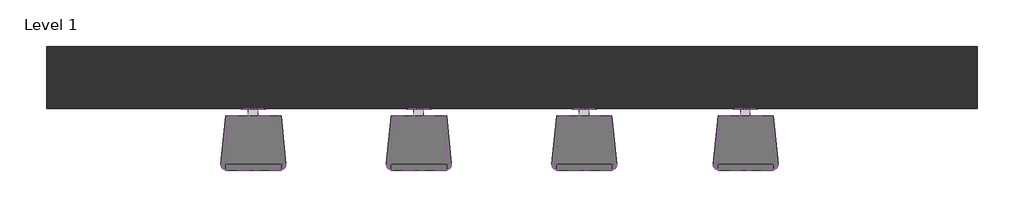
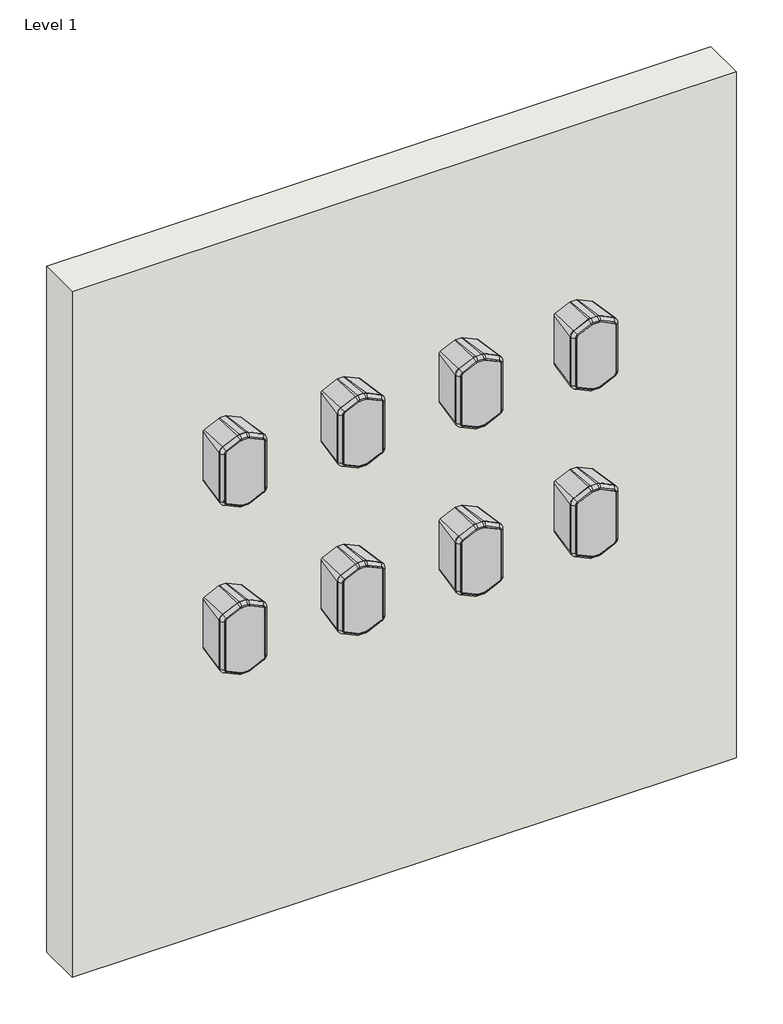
# One storey: 8 proxies, 1 wall.
"""IFC4 building model written with IfcOpenShell, lengths in millimetres."""

from ifc_helpers import new_model, si_unit, origin, origin_with_axes, place, context, project, spatial, polyline, outline, extrude, transform, mapped, element, save
from components import communication_devices_19396da9

model = new_model("IFC4")

# Units and contexts
model_context = context("Model", 3, world=origin())
ifc_project = project(units=[si_unit("LENGTHUNIT", "METRE", prefix="MILLI")], contexts=[model_context])

# Site, building, storey
site = spatial("IfcSite", under=ifc_project)
building = spatial("IfcBuilding", under=site)
storey = spatial("IfcBuildingStorey", under=building, Name="Level 1", Elevation=0.0)

# Proxies
placement = place(None, origin())
communication_devices_shape = communication_devices_19396da9(model_context)
element("IfcBuildingElementProxy", 1, Name="230208 BIM Data_MS 530T VA-FR : MS 530T VA", ObjectType="230208 BIM Data_MS 530T VA-FR : MS 530T VA", at=placement, inside=storey, context=model_context, shape_type="MappedRepresentation", body=[
    mapped(communication_devices_shape, transform((2341.1973575, 1885.8766815, 1625.6), x_axis=(1.0, 0.0, 0.0), y_axis=(0.0, 1.0, 0.0), z_axis=(0.0, 0.0, 1.0))),
])
element("IfcBuildingElementProxy", 2, Name="230208 BIM Data_MS 530T VA-FR : MS 530T VA", ObjectType="230208 BIM Data_MS 530T VA-FR : MS 530T VA", at=placement, inside=storey, context=model_context, shape_type="MappedRepresentation", body=[
    mapped(communication_devices_shape, transform((2747.5973575, 1885.8766815, 1625.6), x_axis=(1.0, 0.0, 0.0), y_axis=(0.0, 1.0, 0.0), z_axis=(0.0, 0.0, 1.0))),
])
element("IfcBuildingElementProxy", 3, Name="230208 BIM Data_MS 530T VA-FR : MS 530T VA", ObjectType="230208 BIM Data_MS 530T VA-FR : MS 530T VA", at=placement, inside=storey, context=model_context, shape_type="MappedRepresentation", body=[
    mapped(communication_devices_shape, transform((3153.9973575, 1885.8766815, 1625.6), x_axis=(1.0, 0.0, 0.0), y_axis=(0.0, 1.0, 0.0), z_axis=(0.0, 0.0, 1.0))),
])
element("IfcBuildingElementProxy", 4, Name="230208 BIM Data_MS 530T VA-FR : MS 530T VA", ObjectType="230208 BIM Data_MS 530T VA-FR : MS 530T VA", at=placement, inside=storey, context=model_context, shape_type="MappedRepresentation", body=[
    mapped(communication_devices_shape, transform((3549.8312507, 1885.8766815, 1625.6), x_axis=(1.0, 0.0, 0.0), y_axis=(0.0, 1.0, 0.0), z_axis=(0.0, 0.0, 1.0))),
])
element("IfcBuildingElementProxy", 5, Name="230208 BIM Data_MS 530T VA-FR : MS 530T VA", ObjectType="230208 BIM Data_MS 530T VA-FR : MS 530T VA", at=placement, inside=storey, context=model_context, shape_type="MappedRepresentation", body=[
    mapped(communication_devices_shape, transform((2341.1973575, 1885.8766815, 1016.0), x_axis=(1.0, 0.0, 0.0), y_axis=(0.0, 1.0, 0.0), z_axis=(0.0, 0.0, 1.0))),
])
element("IfcBuildingElementProxy", 6, Name="230208 BIM Data_MS 530T VA-FR : MS 530T VA", ObjectType="230208 BIM Data_MS 530T VA-FR : MS 530T VA", at=placement, inside=storey, context=model_context, shape_type="MappedRepresentation", body=[
    mapped(communication_devices_shape, transform((2747.5973575, 1885.8766815, 1016.0), x_axis=(1.0, 0.0, 0.0), y_axis=(0.0, 1.0, 0.0), z_axis=(0.0, 0.0, 1.0))),
])
element("IfcBuildingElementProxy", 7, Name="230208 BIM Data_MS 530T VA-FR : MS 530T VA", ObjectType="230208 BIM Data_MS 530T VA-FR : MS 530T VA", at=placement, inside=storey, context=model_context, shape_type="MappedRepresentation", body=[
    mapped(communication_devices_shape, transform((3153.9973575, 1885.8766815, 1016.0), x_axis=(1.0, 0.0, 0.0), y_axis=(0.0, 1.0, 0.0), z_axis=(0.0, 0.0, 1.0))),
])
element("IfcBuildingElementProxy", 8, Name="230208 BIM Data_MS 530T VA-FR : MS 530T VA", ObjectType="230208 BIM Data_MS 530T VA-FR : MS 530T VA", at=placement, inside=storey, context=model_context, shape_type="MappedRepresentation", body=[
    mapped(communication_devices_shape, transform((3549.8312507, 1885.8766815, 1016.0), x_axis=(1.0, 0.0, 0.0), y_axis=(0.0, 1.0, 0.0), z_axis=(0.0, 0.0, 1.0))),
])

# Wall
element("IfcWall", 9, ObjectType="Exterior - 6\" Generic", at=placement, inside=storey, context=model_context, shape_type="SweptSolid", body=[
    extrude(outline(polyline([(4119.1973575, 1963.1766815), (1833.1973575, 1963.1766815), (1833.1973575, 2115.5766815), (4119.1973575, 2115.5766815), (4119.1973575, 1963.1766815)])), origin_with_axes(), (0.0, 0.0, 1.0), 2495.55),
])

save(model, "model.ifc")
